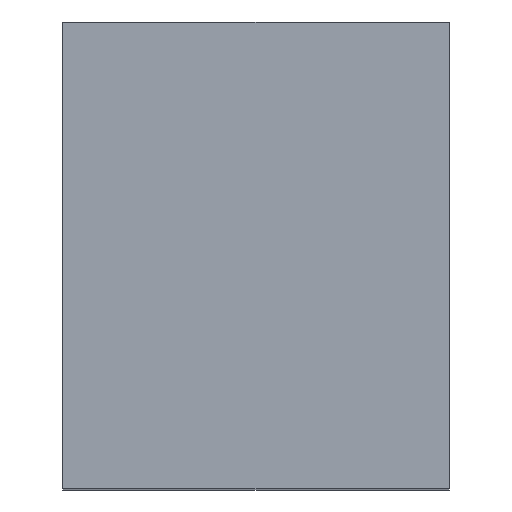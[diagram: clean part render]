
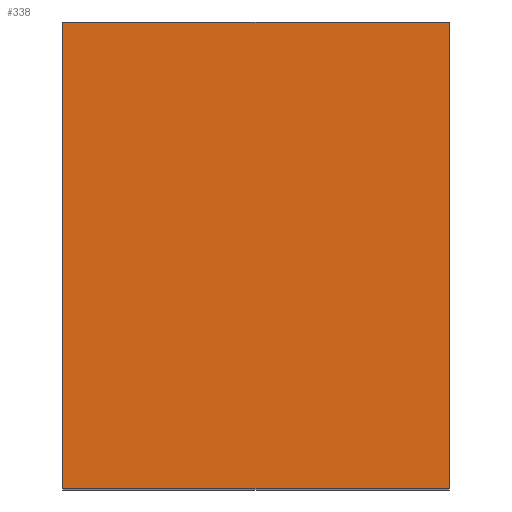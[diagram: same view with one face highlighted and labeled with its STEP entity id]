
A CAD part, top view. The second image highlights one B-rep face of the part: STEP entity #338.
In plain terms, the highlighted planar face has unit normal (0, 0, 1).
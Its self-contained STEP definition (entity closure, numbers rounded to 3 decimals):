
#24 = VERTEX_POINT('',#25);
#25 = CARTESIAN_POINT('',(-42.65,1.45,11.926));
#32 = PLANE('',#33);
#33 = AXIS2_PLACEMENT_3D('',#34,#35,#36);
#34 = CARTESIAN_POINT('',(-42.65,1.45,7.276));
#35 = DIRECTION('',(1.,0.,-0.));
#36 = DIRECTION('',(0.,0.,1.));
#44 = PLANE('',#45);
#45 = AXIS2_PLACEMENT_3D('',#46,#47,#48);
#46 = CARTESIAN_POINT('',(-42.65,1.45,7.276));
#47 = DIRECTION('',(-0.,1.,0.));
#48 = DIRECTION('',(0.,0.,1.));
#85 = VERTEX_POINT('',#86);
#86 = CARTESIAN_POINT('',(-42.65,4.95,11.926));
#100 = PLANE('',#101);
#101 = AXIS2_PLACEMENT_3D('',#102,#103,#104);
#102 = CARTESIAN_POINT('',(-42.65,4.95,7.276));
#103 = DIRECTION('',(-0.,1.,0.));
#104 = DIRECTION('',(0.,0.,1.));
#112 = EDGE_CURVE('',#24,#85,#113,.T.);
#113 = SURFACE_CURVE('',#114,(#118,#125),.PCURVE_S1.);
#114 = LINE('',#115,#116);
#115 = CARTESIAN_POINT('',(-42.65,1.45,11.926));
#116 = VECTOR('',#117,1.);
#117 = DIRECTION('',(-0.,1.,0.));
#118 = PCURVE('',#32,#119);
#119 = DEFINITIONAL_REPRESENTATION('',(#120),#124);
#120 = LINE('',#121,#122);
#121 = CARTESIAN_POINT('',(4.65,0.));
#122 = VECTOR('',#123,1.);
#123 = DIRECTION('',(0.,-1.));
#124 = ( GEOMETRIC_REPRESENTATION_CONTEXT(2) 
PARAMETRIC_REPRESENTATION_CONTEXT() REPRESENTATION_CONTEXT('2D SPACE',''
  ) );
#125 = PCURVE('',#126,#131);
#126 = PLANE('',#127);
#127 = AXIS2_PLACEMENT_3D('',#128,#129,#130);
#128 = CARTESIAN_POINT('',(-42.65,1.45,11.926));
#129 = DIRECTION('',(0.,0.,1.));
#130 = DIRECTION('',(1.,0.,-0.));
#131 = DEFINITIONAL_REPRESENTATION('',(#132),#136);
#132 = LINE('',#133,#134);
#133 = CARTESIAN_POINT('',(0.,0.));
#134 = VECTOR('',#135,1.);
#135 = DIRECTION('',(0.,1.));
#136 = ( GEOMETRIC_REPRESENTATION_CONTEXT(2) 
PARAMETRIC_REPRESENTATION_CONTEXT() REPRESENTATION_CONTEXT('2D SPACE',''
  ) );
#144 = VERTEX_POINT('',#145);
#145 = CARTESIAN_POINT('',(-39.75,1.45,11.926));
#152 = PLANE('',#153);
#153 = AXIS2_PLACEMENT_3D('',#154,#155,#156);
#154 = CARTESIAN_POINT('',(-39.75,1.45,7.276));
#155 = DIRECTION('',(1.,0.,-0.));
#156 = DIRECTION('',(0.,0.,1.));
#195 = VERTEX_POINT('',#196);
#196 = CARTESIAN_POINT('',(-39.75,4.95,11.926));
#217 = EDGE_CURVE('',#144,#195,#218,.T.);
#218 = SURFACE_CURVE('',#219,(#223,#230),.PCURVE_S1.);
#219 = LINE('',#220,#221);
#220 = CARTESIAN_POINT('',(-39.75,1.45,11.926));
#221 = VECTOR('',#222,1.);
#222 = DIRECTION('',(-0.,1.,0.));
#223 = PCURVE('',#152,#224);
#224 = DEFINITIONAL_REPRESENTATION('',(#225),#229);
#225 = LINE('',#226,#227);
#226 = CARTESIAN_POINT('',(4.65,0.));
#227 = VECTOR('',#228,1.);
#228 = DIRECTION('',(0.,-1.));
#229 = ( GEOMETRIC_REPRESENTATION_CONTEXT(2) 
PARAMETRIC_REPRESENTATION_CONTEXT() REPRESENTATION_CONTEXT('2D SPACE',''
  ) );
#230 = PCURVE('',#126,#231);
#231 = DEFINITIONAL_REPRESENTATION('',(#232),#236);
#232 = LINE('',#233,#234);
#233 = CARTESIAN_POINT('',(2.9,0.));
#234 = VECTOR('',#235,1.);
#235 = DIRECTION('',(0.,1.));
#236 = ( GEOMETRIC_REPRESENTATION_CONTEXT(2) 
PARAMETRIC_REPRESENTATION_CONTEXT() REPRESENTATION_CONTEXT('2D SPACE',''
  ) );
#263 = EDGE_CURVE('',#24,#144,#264,.T.);
#264 = SURFACE_CURVE('',#265,(#269,#276),.PCURVE_S1.);
#265 = LINE('',#266,#267);
#266 = CARTESIAN_POINT('',(-42.65,1.45,11.926));
#267 = VECTOR('',#268,1.);
#268 = DIRECTION('',(1.,0.,-0.));
#269 = PCURVE('',#44,#270);
#270 = DEFINITIONAL_REPRESENTATION('',(#271),#275);
#271 = LINE('',#272,#273);
#272 = CARTESIAN_POINT('',(4.65,0.));
#273 = VECTOR('',#274,1.);
#274 = DIRECTION('',(0.,1.));
#275 = ( GEOMETRIC_REPRESENTATION_CONTEXT(2) 
PARAMETRIC_REPRESENTATION_CONTEXT() REPRESENTATION_CONTEXT('2D SPACE',''
  ) );
#276 = PCURVE('',#126,#277);
#277 = DEFINITIONAL_REPRESENTATION('',(#278),#282);
#278 = LINE('',#279,#280);
#279 = CARTESIAN_POINT('',(0.,0.));
#280 = VECTOR('',#281,1.);
#281 = DIRECTION('',(1.,0.));
#282 = ( GEOMETRIC_REPRESENTATION_CONTEXT(2) 
PARAMETRIC_REPRESENTATION_CONTEXT() REPRESENTATION_CONTEXT('2D SPACE',''
  ) );
#310 = EDGE_CURVE('',#85,#195,#311,.T.);
#311 = SURFACE_CURVE('',#312,(#316,#323),.PCURVE_S1.);
#312 = LINE('',#313,#314);
#313 = CARTESIAN_POINT('',(-42.65,4.95,11.926));
#314 = VECTOR('',#315,1.);
#315 = DIRECTION('',(1.,0.,-0.));
#316 = PCURVE('',#100,#317);
#317 = DEFINITIONAL_REPRESENTATION('',(#318),#322);
#318 = LINE('',#319,#320);
#319 = CARTESIAN_POINT('',(4.65,0.));
#320 = VECTOR('',#321,1.);
#321 = DIRECTION('',(0.,1.));
#322 = ( GEOMETRIC_REPRESENTATION_CONTEXT(2) 
PARAMETRIC_REPRESENTATION_CONTEXT() REPRESENTATION_CONTEXT('2D SPACE',''
  ) );
#323 = PCURVE('',#126,#324);
#324 = DEFINITIONAL_REPRESENTATION('',(#325),#329);
#325 = LINE('',#326,#327);
#326 = CARTESIAN_POINT('',(0.,3.5));
#327 = VECTOR('',#328,1.);
#328 = DIRECTION('',(1.,0.));
#329 = ( GEOMETRIC_REPRESENTATION_CONTEXT(2) 
PARAMETRIC_REPRESENTATION_CONTEXT() REPRESENTATION_CONTEXT('2D SPACE',''
  ) );
#338 = ADVANCED_FACE('',(#339),#126,.T.);
#339 = FACE_BOUND('',#340,.T.);
#340 = EDGE_LOOP('',(#341,#342,#343,#344));
#341 = ORIENTED_EDGE('',*,*,#112,.F.);
#342 = ORIENTED_EDGE('',*,*,#263,.T.);
#343 = ORIENTED_EDGE('',*,*,#217,.T.);
#344 = ORIENTED_EDGE('',*,*,#310,.F.);
